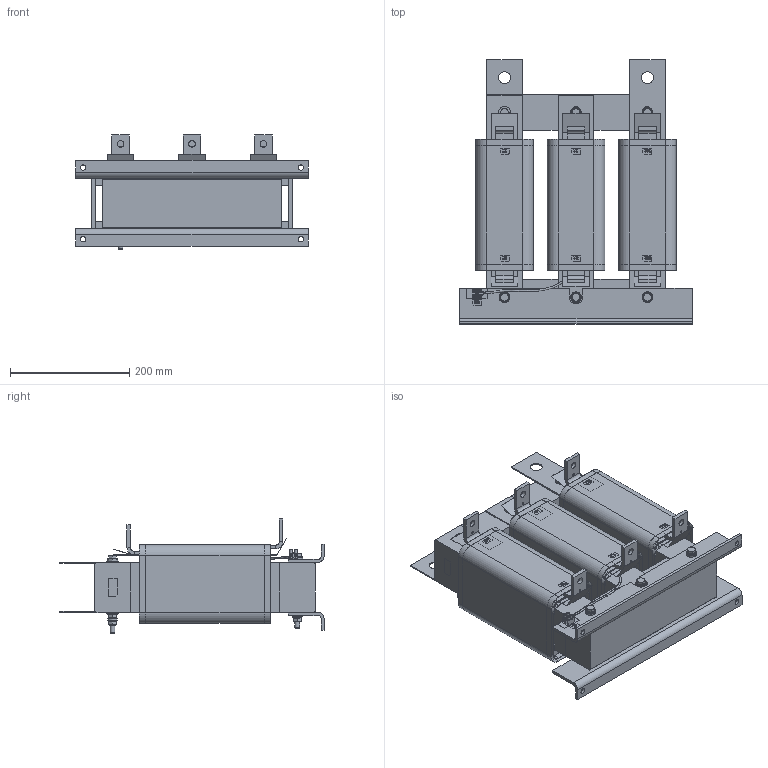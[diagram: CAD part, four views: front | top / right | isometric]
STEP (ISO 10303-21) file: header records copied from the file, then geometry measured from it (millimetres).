
FILE_DESCRIPTION(/* description */ ('raw material description'),/* implementation_level */ '2;1');
FILE_NAME(/* name */ 'C:\Users\Erika.Jenzer\Desktop\Neuer Ordner\FN5060HV-320-99.stp',/* time_stamp */ '2019-11-18T15:07:11+01:00',/* author */ ('erika.jenzer'),/* organization */ ('Schaffner EMV AG'),/* preprocessor_version */ 'ST-DEVELOPER v16.5',/* originating_system */ 'Autodesk Inventor 2017',/* authorisation */ '');
FILE_SCHEMA (('AUTOMOTIVE_DESIGN { 1 0 10303 214 3 1 1 }'));
Products named in the file (1): FN5060HV-320-99
Bounding box: 390 x 443.7 x 191.54 mm (x, y, z)
Volume: 10203772.8 mm3; surface area: 1314808.8 mm2
Topology: 1 solids, 16 shells, 1878 faces, 4944 edges, 3231 vertices
Faces by surface type: plane 1274, cylinder 403, cone 92, bspline 90, torus 18, sphere 1
Full cylindrical faces by diameter (mm): 0.01 x2, 1 x2, 2 x2, 2.5 x1, 2.8 x11, 3 x1, 3.4 x4, 8 x13, 8.2 x6, 8.4 x13, 9 x4, 9.9 x5, 10.5 x3, 11 x16, 11.4 x6, 13 x1, 16 x11, 18 x5, 20 x4
Entity records: 61077 total; most frequent: CARTESIAN_POINT 13549, ORIENTED_EDGE 9444, DIRECTION 9041, EDGE_CURVE 4715, LINE 3327, VECTOR 3327, VERTEX_POINT 3172, AXIS2_PLACEMENT_3D 2857
